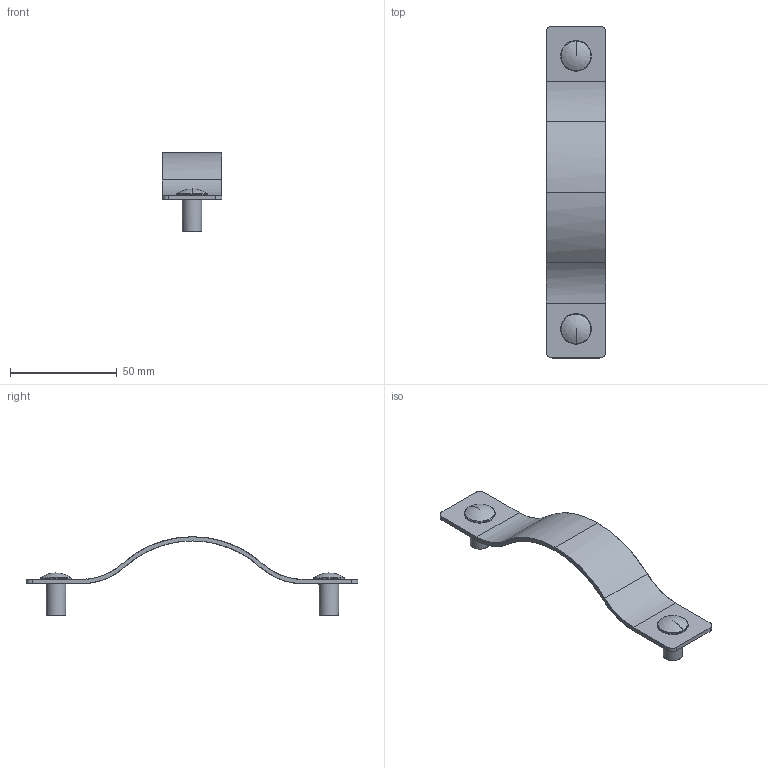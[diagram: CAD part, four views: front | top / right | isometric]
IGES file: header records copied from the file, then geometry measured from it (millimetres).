
Start section: C
Global section: file name: 8294-156.igs; native system: By Siemens PLM Incorporated; preprocessor: XPlus GENERIC/IGES 16.0.42; author: Author; organization: Title; date: 20220504.150326; units: millimetre
Bounding box: 28 x 155.23 x 36.79 mm (x, y, z)
Surface area: 12031.2 mm2 (no closed solid volume)
Topology: 0 solids, 0 shells, 38 faces, 210 edges, 208 vertices
Faces by surface type: bspline 38
